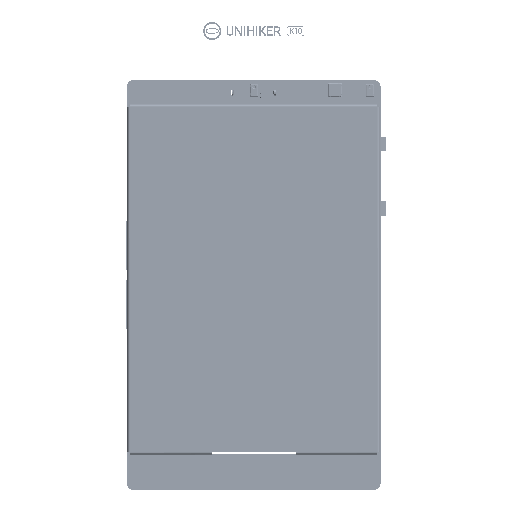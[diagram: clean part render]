
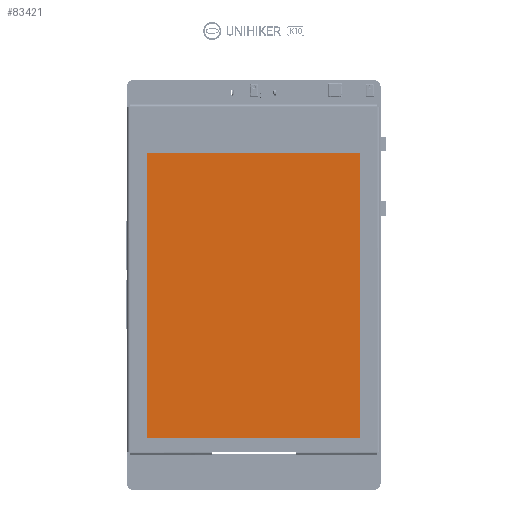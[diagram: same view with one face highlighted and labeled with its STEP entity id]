
A CAD part, top view. The second image highlights one B-rep face of the part: STEP entity #83421.
In plain terms, the highlighted planar face has unit normal (0, 0, 1).
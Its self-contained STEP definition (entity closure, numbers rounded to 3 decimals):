
#53020=B_SPLINE_CURVE_WITH_KNOTS('',1,(#768863,#768864),.UNSPECIFIED.,.F.,
 .F.,(2,2),(0.,50.),.UNSPECIFIED.);
#53023=B_SPLINE_CURVE_WITH_KNOTS('',1,(#768869,#768870),.UNSPECIFIED.,.F.,
 .F.,(2,2),(0.,69.2),.UNSPECIFIED.);
#53026=B_SPLINE_CURVE_WITH_KNOTS('',1,(#768875,#768876),.UNSPECIFIED.,.F.,
 .F.,(2,2),(0.,50.),.UNSPECIFIED.);
#53029=B_SPLINE_CURVE_WITH_KNOTS('',1,(#768881,#768882),.UNSPECIFIED.,.F.,
 .F.,(2,2),(0.,69.2),.UNSPECIFIED.);
#83421=ADVANCED_FACE('',(#104911),#349892,.T.);
#104911=FACE_OUTER_BOUND('',#127330,.T.);
#127330=EDGE_LOOP('',(#236803,#236804,#236805,#236806));
#236803=ORIENTED_EDGE('',*,*,#293248,.T.);
#236804=ORIENTED_EDGE('',*,*,#293251,.T.);
#236805=ORIENTED_EDGE('',*,*,#293254,.T.);
#236806=ORIENTED_EDGE('',*,*,#293257,.T.);
#293248=EDGE_CURVE('',#338596,#338597,#53020,.T.);
#293251=EDGE_CURVE('',#338597,#338599,#53023,.T.);
#293254=EDGE_CURVE('',#338599,#338601,#53026,.T.);
#293257=EDGE_CURVE('',#338601,#338596,#53029,.T.);
#338596=VERTEX_POINT('',#768854);
#338597=VERTEX_POINT('',#768855);
#338599=VERTEX_POINT('',#768857);
#338601=VERTEX_POINT('',#768859);
#349892=PLANE('',#365622);
#365622=AXIS2_PLACEMENT_3D('',#768852,#376662,$);
#376662=DIRECTION('',(0.,0.,1.));
#768852=CARTESIAN_POINT('',(-30.479,-40.42,5.729));
#768854=CARTESIAN_POINT('',(-25.479,-33.5,5.729));
#768855=CARTESIAN_POINT('',(24.521,-33.5,5.729));
#768857=CARTESIAN_POINT('',(24.521,35.7,5.729));
#768859=CARTESIAN_POINT('',(-25.479,35.7,5.729));
#768863=CARTESIAN_POINT('',(-25.479,-33.5,5.729));
#768864=CARTESIAN_POINT('',(24.521,-33.5,5.729));
#768869=CARTESIAN_POINT('',(24.521,-33.5,5.729));
#768870=CARTESIAN_POINT('',(24.521,35.7,5.729));
#768875=CARTESIAN_POINT('',(24.521,35.7,5.729));
#768876=CARTESIAN_POINT('',(-25.479,35.7,5.729));
#768881=CARTESIAN_POINT('',(-25.479,35.7,5.729));
#768882=CARTESIAN_POINT('',(-25.479,-33.5,5.729));
